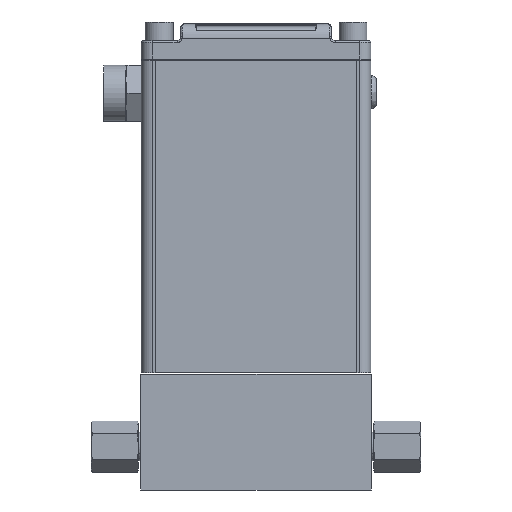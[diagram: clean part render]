
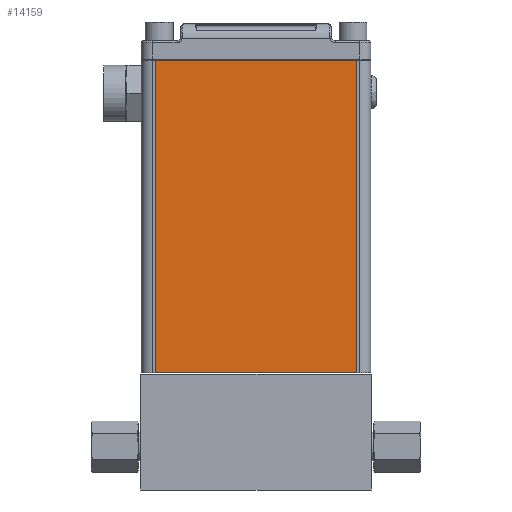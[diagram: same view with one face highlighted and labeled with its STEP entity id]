
A CAD part, front view. The second image highlights one B-rep face of the part: STEP entity #14159.
In plain terms, the highlighted planar face has unit normal (0, -1, 0).
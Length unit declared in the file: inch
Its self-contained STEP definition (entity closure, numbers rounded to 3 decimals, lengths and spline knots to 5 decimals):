
#108 = CARTESIAN_POINT ( 'NONE',  ( -0.41972, -0.24061, 6.28514 ) ) ;
#282 = DIRECTION ( 'NONE',  ( 0., 1., 0. ) ) ;
#333 = VECTOR ( 'NONE', #6116, 39.37008 ) ;
#846 = LINE ( 'NONE', #108, #8082 ) ;
#1529 = PLANE ( 'NONE',  #3873 ) ;
#2558 = VERTEX_POINT ( 'NONE', #5278 ) ;
#3295 = EDGE_LOOP ( 'NONE', ( #10276, #9055, #14331, #10583 ) ) ;
#3333 = CARTESIAN_POINT ( 'NONE',  ( 2.97328, -0.24061, 1.03514 ) ) ;
#3873 = AXIS2_PLACEMENT_3D ( 'NONE', #7279, #282, #5019 ) ;
#4828 = LINE ( 'NONE', #5850, #6829 ) ;
#4895 = EDGE_CURVE ( 'NONE', #7689, #11058, #9761, .T. ) ;
#5019 = DIRECTION ( 'NONE',  ( 0., 0., 1. ) ) ;
#5278 = CARTESIAN_POINT ( 'NONE',  ( -0.41972, -0.24061, 1.03514 ) ) ;
#5850 = CARTESIAN_POINT ( 'NONE',  ( -0.41972, -0.24061, 6.28514 ) ) ;
#6084 = CARTESIAN_POINT ( 'NONE',  ( 2.97328, -0.24061, 6.28514 ) ) ;
#6116 = DIRECTION ( 'NONE',  ( 0., 0., -1. ) ) ;
#6829 = VECTOR ( 'NONE', #7091, 39.37008 ) ;
#7091 = DIRECTION ( 'NONE',  ( 1., 0., 0. ) ) ;
#7279 = CARTESIAN_POINT ( 'NONE',  ( -0.41972, -0.24061, 6.28514 ) ) ;
#7675 = EDGE_CURVE ( 'NONE', #2558, #11405, #846, .T. ) ;
#7689 = VERTEX_POINT ( 'NONE', #6084 ) ;
#7898 = CARTESIAN_POINT ( 'NONE',  ( -0.41972, -0.24061, 1.03514 ) ) ;
#8082 = VECTOR ( 'NONE', #14488, 39.37008 ) ;
#9055 = ORIENTED_EDGE ( 'NONE', *, *, #4895, .F. ) ;
#9287 = EDGE_CURVE ( 'NONE', #11058, #2558, #12730, .T. ) ;
#9753 = FACE_OUTER_BOUND ( 'NONE', #3295, .T. ) ;
#9761 = LINE ( 'NONE', #14516, #333 ) ;
#10276 = ORIENTED_EDGE ( 'NONE', *, *, #9287, .F. ) ;
#10583 = ORIENTED_EDGE ( 'NONE', *, *, #7675, .F. ) ;
#10605 = VECTOR ( 'NONE', #14985, 39.37008 ) ;
#11058 = VERTEX_POINT ( 'NONE', #3333 ) ;
#11405 = VERTEX_POINT ( 'NONE', #14487 ) ;
#11834 = EDGE_CURVE ( 'NONE', #11405, #7689, #4828, .T. ) ;
#12730 = LINE ( 'NONE', #7898, #10605 ) ;
#14159 = ADVANCED_FACE ( 'NONE', ( #9753 ), #1529, .F. ) ;
#14331 = ORIENTED_EDGE ( 'NONE', *, *, #11834, .F. ) ;
#14487 = CARTESIAN_POINT ( 'NONE',  ( -0.41972, -0.24061, 6.28514 ) ) ;
#14488 = DIRECTION ( 'NONE',  ( 0., 0., 1. ) ) ;
#14516 = CARTESIAN_POINT ( 'NONE',  ( 2.97328, -0.24061, 6.28514 ) ) ;
#14985 = DIRECTION ( 'NONE',  ( -1., 0., 0. ) ) ;
